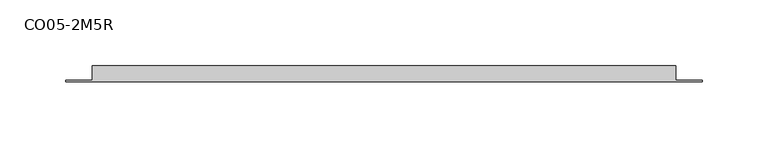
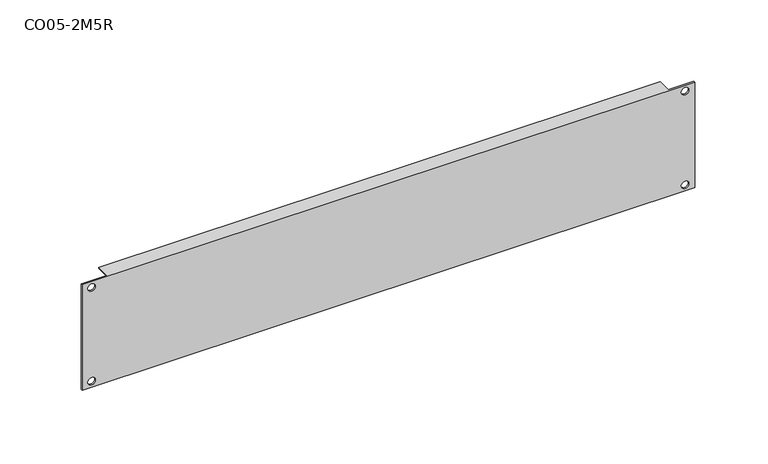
"""IFC4 building model written with IfcOpenShell, lengths in millimetres: proxy geometry, Кабельный организатор_2M5R : CO05-2M5R."""

from ifc_helpers import new_model, si_unit, frame, origin, place, context, project, spatial, polyline, circle_curve, source, transform, mapped, element, save
from ifc_brep_helpers import plane_surface, revolved_surface, advanced_brep


def co05_2m5r_7ec1da49(model_context):
    return source(origin(), model_context, "Body", "AdvancedBrep", [
        advanced_brep(
        [(-241.0, 0.0, 88.0), (-241.0, -1.0, 88.0), (241.0, -1.0, 88.0), (241.0, 0.0, 88.0), (221.0, 0.0, 88.0), (221.0, 11.0, 88.0), (-221.0, 11.0, 88.0), (-221.0, 0.0, 88.0), (241.0, 0.0, 0.0), (241.0, -1.0, 0.0), (-241.0, -1.0, 0.0), (-241.0, 0.0, 0.0), (-221.0, 0.0, 0.0), (-221.0, 11.0, 0.0), (221.0, 11.0, 0.0), (221.0, 0.0, 0.0), (221.0, 0.0, 1.0), (-221.0, 0.0, 1.0), (-221.0, 0.0, 87.0), (221.0, 0.0, 87.0), (-230.5581342, 0.0, 83.0), (-236.4927021, 0.0, 83.0), (-230.5581342, 0.0, 5.0), (-236.4927021, 0.0, 5.0), (236.4927021, 0.0, 83.0), (230.5581342, 0.0, 83.0), (236.4927021, 0.0, 5.0), (230.5581342, 0.0, 5.0), (-236.4927021, -1.0, 83.0), (-230.5581342, -1.0, 83.0), (-236.4927021, -1.0, 5.0), (-230.5581342, -1.0, 5.0), (230.5581342, -1.0, 83.0), (236.4927021, -1.0, 83.0), (230.5581342, -1.0, 5.0), (236.4927021, -1.0, 5.0), (221.0, 11.0, 87.0), (221.0, 11.0, 1.0), (-221.0, 11.0, 87.0), (-221.0, 11.0, 1.0)],
        [
            (0, 1),
            (1, 2),
            (2, 3),
            (3, 4),
            (4, 5),
            (5, 6),
            (6, 7),
            (7, 0),
            (8, 9),
            (9, 10),
            (10, 11),
            (11, 12),
            (12, 13),
            (13, 14),
            (14, 15),
            (15, 8),
            (3, 8),
            (15, 16),
            (16, 17),
            (17, 12),
            (11, 0),
            (7, 18),
            (18, 19),
            (19, 4),
            (20, 21, circle_curve(frame((-233.5254182, 0.0, 83.0), z_axis=(0.0, -1.0, 0.0), x_axis=(-1.0, 0.0, 0.0)), 2.967284)),
            (21, 20, circle_curve(frame((-233.5254182, 0.0, 83.0), z_axis=(0.0, -1.0, 0.0), x_axis=(-1.0, 0.0, 0.0)), 2.967284)),
            (22, 23, circle_curve(frame((-233.5254182, 0.0, 5.0), z_axis=(0.0, -1.0, 0.0), x_axis=(-1.0, 0.0, 0.0)), 2.967284)),
            (23, 22, circle_curve(frame((-233.5254182, 0.0, 5.0), z_axis=(0.0, -1.0, 0.0), x_axis=(-1.0, 0.0, 0.0)), 2.967284)),
            (24, 25, circle_curve(frame((233.5254182, 0.0, 83.0), z_axis=(0.0, -1.0, 0.0), x_axis=(-1.0, 0.0, 0.0)), 2.967284)),
            (25, 24, circle_curve(frame((233.5254182, 0.0, 83.0), z_axis=(0.0, -1.0, 0.0), x_axis=(-1.0, 0.0, 0.0)), 2.967284)),
            (26, 27, circle_curve(frame((233.5254182, 0.0, 5.0), z_axis=(0.0, -1.0, 0.0), x_axis=(-1.0, 0.0, 0.0)), 2.967284)),
            (27, 26, circle_curve(frame((233.5254182, 0.0, 5.0), z_axis=(0.0, -1.0, 0.0), x_axis=(-1.0, 0.0, 0.0)), 2.967284)),
            (10, 1),
            (9, 2),
            (28, 29, circle_curve(frame((-233.5254182, -1.0, 83.0), z_axis=(0.0, 1.0, 0.0), x_axis=(-1.0, 0.0, 0.0)), 2.967284)),
            (29, 28, circle_curve(frame((-233.5254182, -1.0, 83.0), z_axis=(0.0, 1.0, 0.0), x_axis=(-1.0, 0.0, 0.0)), 2.967284)),
            (30, 31, circle_curve(frame((-233.5254182, -1.0, 5.0), z_axis=(0.0, 1.0, 0.0), x_axis=(-1.0, 0.0, 0.0)), 2.967284)),
            (31, 30, circle_curve(frame((-233.5254182, -1.0, 5.0), z_axis=(0.0, 1.0, 0.0), x_axis=(-1.0, 0.0, 0.0)), 2.967284)),
            (32, 33, circle_curve(frame((233.5254182, -1.0, 83.0), z_axis=(0.0, 1.0, 0.0), x_axis=(-1.0, 0.0, 0.0)), 2.967284)),
            (33, 32, circle_curve(frame((233.5254182, -1.0, 83.0), z_axis=(0.0, 1.0, 0.0), x_axis=(-1.0, 0.0, 0.0)), 2.967284)),
            (34, 35, circle_curve(frame((233.5254182, -1.0, 5.0), z_axis=(0.0, 1.0, 0.0), x_axis=(-1.0, 0.0, 0.0)), 2.967284)),
            (35, 34, circle_curve(frame((233.5254182, -1.0, 5.0), z_axis=(0.0, 1.0, 0.0), x_axis=(-1.0, 0.0, 0.0)), 2.967284)),
            (28, 21),
            (20, 29),
            (30, 23),
            (22, 31),
            (32, 25),
            (24, 33),
            (34, 27),
            (26, 35),
            (19, 36),
            (36, 5),
            (37, 16),
            (14, 37),
            (6, 38),
            (38, 18),
            (39, 13),
            (17, 39),
            (39, 37),
            (38, 36),
        ],
        [
            plane_surface(frame((-241.0, 0.0, 88.0), z_axis=(0.0, 0.0, 1.0), x_axis=(-1.0, 0.0, 0.0))),
            plane_surface(frame((-241.0, 0.0, 0.0), z_axis=(0.0, 0.0, -1.0), x_axis=(1.0, 0.0, 0.0))),
            plane_surface(frame((241.0, 0.0, 88.0), z_axis=(0.0, 1.0, 0.0), x_axis=(0.0, 0.0, -1.0))),
            plane_surface(frame((-241.0, 0.0, 88.0), z_axis=(-1.0, 0.0, 0.0), x_axis=(0.0, 0.0, -1.0))),
            plane_surface(frame((-241.0, -1.0, 88.0), z_axis=(0.0, -1.0, 0.0), x_axis=(0.0, 0.0, -1.0))),
            plane_surface(frame((241.0, -1.0, 88.0), z_axis=(1.0, 0.0, 0.0), x_axis=(0.0, 0.0, -1.0))),
            revolved_surface(polyline([(-236.4927022, -1.0, 83.0), (-236.4927022, 0.0, 83.0)]), (-233.5254182, 0.0, 83.0), (0.0, -1.0, 0.0)),
            revolved_surface(polyline([(-236.4927022, -1.0, 5.0), (-236.4927022, 0.0, 5.0)]), (-233.5254182, -1.0, 5.0), (0.0, -1.0, 0.0)),
            revolved_surface(polyline([(230.55813419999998, -1.0, 83.0), (230.55813419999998, 0.0, 83.0)]), (233.5254182, -1.0, 83.0), (0.0, -1.0, 0.0)),
            revolved_surface(polyline([(230.55813419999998, -1.0, 5.0), (230.55813419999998, 0.0, 5.0)]), (233.5254182, -1.0, 5.0), (0.0, -1.0, 0.0)),
            plane_surface(frame((221.0, 0.0, 88.0), z_axis=(1.0, 0.0, 0.0), x_axis=(0.0, 0.0, -1.0))),
            plane_surface(frame((-221.0, 0.0, 88.0), z_axis=(-1.0, 0.0, 0.0), x_axis=(0.0, 0.0, 1.0))),
            plane_surface(frame((221.0, 11.0, 0.0), z_axis=(0.0, 1.0, 0.0), x_axis=(-1.0, 0.0, 0.0))),
            plane_surface(frame((221.0, 0.0, 87.0), z_axis=(0.0, 0.0, -1.0), x_axis=(-1.0, 0.0, 0.0))),
            plane_surface(frame((221.0, 11.0, 1.0), z_axis=(0.0, 0.0, 1.0), x_axis=(-1.0, 0.0, 0.0))),
            plane_surface(frame((221.0, 11.0, 87.0), z_axis=(0.0, 1.0, 0.0), x_axis=(-1.0, 0.0, 0.0))),
        ],
        [
            (0, [[1, 2, 3, 4, 5, 6, 7, 8]]),
            (1, [[9, 10, 11, 12, 13, 14, 15, 16]]),
            (2, [[17, -16, 18, 19, 20, -12, 21, -8, 22, 23, 24, -4], [25, 26], [27, 28], [29, 30], [31, 32]]),
            (3, [[-1, -21, -11, 33]]),
            (4, [[-2, -33, -10, 34], [35, 36], [37, 38], [39, 40], [41, 42]]),
            (5, [[-3, -34, -9, -17]]),
            (6, [[43, -25, 44, -35]]),
            (6, [[-43, -36, -44, -26]]),
            (7, [[45, -27, 46, -37]]),
            (7, [[-45, -38, -46, -28]]),
            (8, [[47, -29, 48, -39]]),
            (8, [[-47, -40, -48, -30]]),
            (9, [[49, -31, 50, -41]]),
            (9, [[-49, -42, -50, -32]]),
            (10, [[51, 52, -5, -24]]),
            (10, [[53, -18, -15, 54]]),
            (11, [[-7, 55, 56, -22]]),
            (11, [[57, -13, -20, 58]]),
            (12, [[-54, -14, -57, 59]]),
            (13, [[-51, -23, -56, 60]]),
            (14, [[-53, -59, -58, -19]]),
            (15, [[-52, -60, -55, -6]]),
        ],
    ),
    ])


if __name__ == "__main__":
    model = new_model("IFC4")
    model_context = context("Model", 3, world=origin())
    ifc_project = project(units=[si_unit("LENGTHUNIT", "METRE", prefix="MILLI")], contexts=[model_context])
    site = spatial("IfcSite", under=ifc_project)
    building = spatial("IfcBuilding", under=site)
    placement = place(None, origin())
    co05_2m5r_shape = co05_2m5r_7ec1da49(model_context)
    element("IfcBuildingElementProxy", 1, Name="Кабельный организатор_2M5R : CO05-2M5R", ObjectType="Кабельный организатор_2M5R : CO05-2M5R", at=placement, inside=building, context=model_context, shape_type="MappedRepresentation", body=[
        mapped(co05_2m5r_shape, transform((0.0, 0.0, 0.0), x_axis=(1.0, 0.0, 0.0), y_axis=(0.0, 1.0, 0.0), z_axis=(0.0, 0.0, 1.0))),
    ])
    save(model, "model.ifc")
